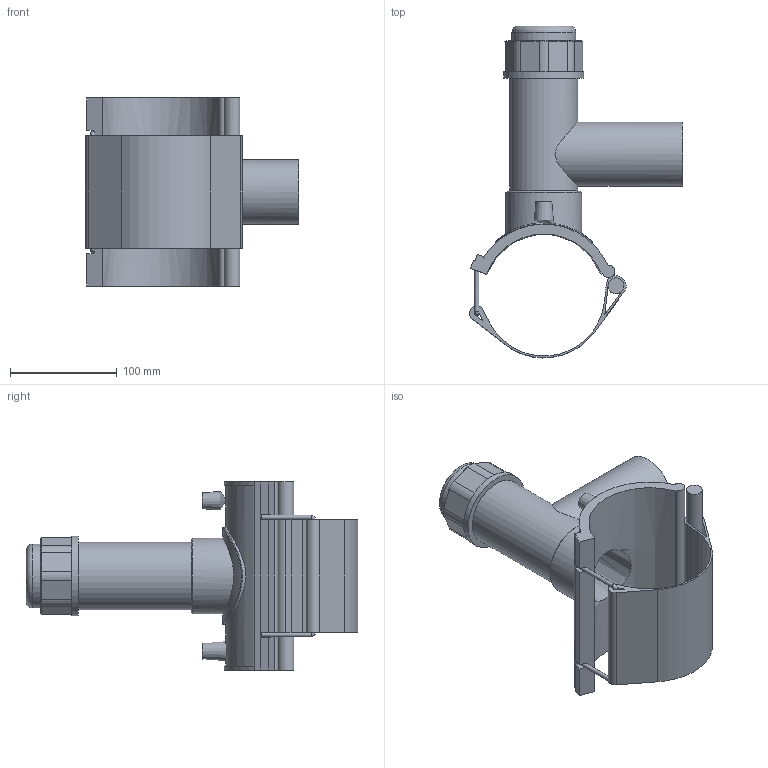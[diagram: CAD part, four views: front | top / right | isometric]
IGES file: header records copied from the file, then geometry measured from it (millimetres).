
Global section: file name: 5913BB03040020.ipt; native system: Autodesk Inventor 2019; preprocessor: unknown; author: KIM; date: 20210830.101036; units: millimetre
Bounding box: 199.37 x 310.62 x 176.02 mm (x, y, z)
Volume: 790535.5 mm3; surface area: 229309.5 mm2
Topology: 2 solids, 2 shells, 124 faces, 314 edges, 195 vertices
Faces by surface type: plane 69, cylinder 29, revolution 12, cone 11, bspline 3
Full cylindrical faces by diameter (mm): 4 x2, 4.108 x2, 14.833 x1, 59.88 x1, 60.1 x1, 63.622 x1, 71.107 x1, 74.85 x1, 91.28 x1
